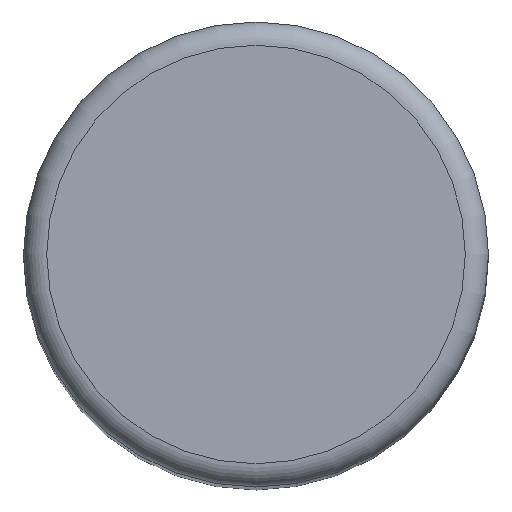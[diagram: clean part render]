
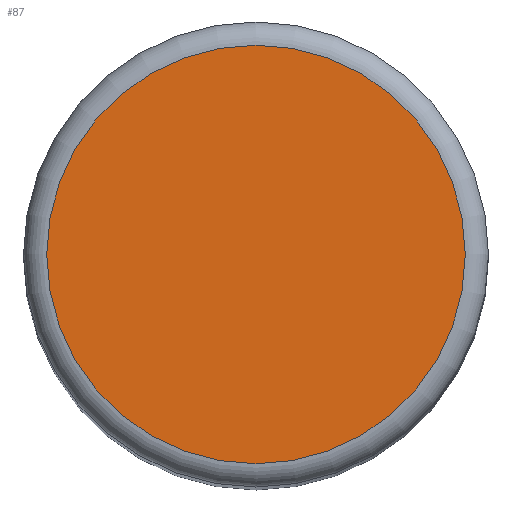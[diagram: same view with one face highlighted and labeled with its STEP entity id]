
A CAD part, top view. The second image highlights one B-rep face of the part: STEP entity #87.
In plain terms, the highlighted planar face has unit normal (0, 0, 1).
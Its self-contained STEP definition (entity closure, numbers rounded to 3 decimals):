
#16=PLANE('',#122);
#24=FACE_OUTER_BOUND('',#29,.T.);
#29=EDGE_LOOP('',(#79,#80));
#37=CIRCLE('',#119,1.8);
#39=CIRCLE('',#121,1.8);
#46=VERTEX_POINT('',#175);
#47=VERTEX_POINT('',#176);
#56=EDGE_CURVE('',#46,#47,#37,.T.);
#58=EDGE_CURVE('',#47,#46,#39,.T.);
#79=ORIENTED_EDGE('',*,*,#56,.F.);
#80=ORIENTED_EDGE('',*,*,#58,.F.);
#87=ADVANCED_FACE('',(#24),#16,.T.);
#119=AXIS2_PLACEMENT_3D('',#177,#148,#149);
#121=AXIS2_PLACEMENT_3D('',#179,#152,#153);
#122=AXIS2_PLACEMENT_3D('',#180,#154,#155);
#148=DIRECTION('center_axis',(0.,0.,-1.));
#149=DIRECTION('ref_axis',(-1.,0.,0.));
#152=DIRECTION('center_axis',(0.,0.,-1.));
#153=DIRECTION('ref_axis',(-1.,0.,0.));
#154=DIRECTION('center_axis',(0.,0.,1.));
#155=DIRECTION('ref_axis',(1.,0.,0.));
#175=CARTESIAN_POINT('',(1.8,0.,15.));
#176=CARTESIAN_POINT('',(-1.8,0.,15.));
#177=CARTESIAN_POINT('Origin',(0.,0.,15.));
#179=CARTESIAN_POINT('Origin',(0.,0.,15.));
#180=CARTESIAN_POINT('Origin',(0.,0.,15.));
